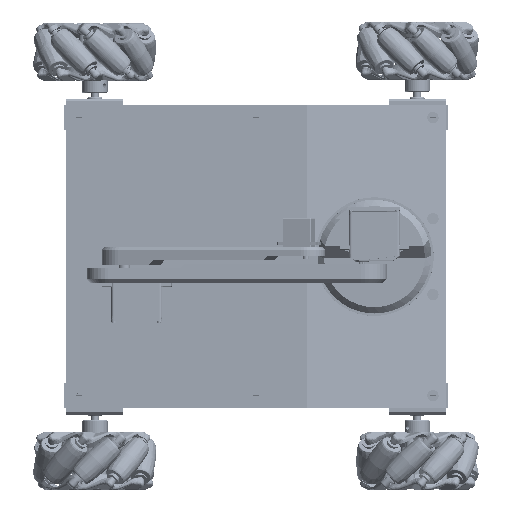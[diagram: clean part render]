
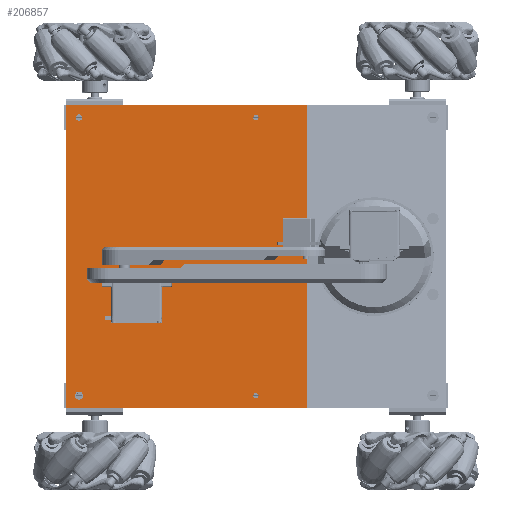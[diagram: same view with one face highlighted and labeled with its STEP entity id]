
A CAD part, front view. The second image highlights one B-rep face of the part: STEP entity #206857.
In plain terms, the highlighted planar face has unit normal (0, -1, 0) as drawn and (0, 0, 1) by its records, which use the part's own axes.
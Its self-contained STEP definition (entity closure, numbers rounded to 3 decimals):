
#16586=FACE_BOUND('',#39625,.T.);
#16587=FACE_BOUND('',#39626,.T.);
#16588=FACE_BOUND('',#39627,.T.);
#16589=FACE_BOUND('',#39628,.T.);
#26872=FACE_OUTER_BOUND('',#39624,.T.);
#39624=EDGE_LOOP('',(#181310,#181311,#181312,#181313));
#39625=EDGE_LOOP('',(#181314));
#39626=EDGE_LOOP('',(#181315));
#39627=EDGE_LOOP('',(#181316));
#39628=EDGE_LOOP('',(#181317));
#47024=CIRCLE('',#226141,2.5);
#47026=CIRCLE('',#226144,3.235);
#47028=CIRCLE('',#226147,2.1);
#47030=CIRCLE('',#226150,2.1);
#61621=LINE('',#482005,#79362);
#61624=LINE('',#482011,#79365);
#61627=LINE('',#482017,#79368);
#61630=LINE('',#482021,#79371);
#79362=VECTOR('',#274511,10.);
#79365=VECTOR('',#274516,10.);
#79368=VECTOR('',#274521,10.);
#79371=VECTOR('',#274526,10.);
#98684=VERTEX_POINT('',#481975);
#98686=VERTEX_POINT('',#481981);
#98688=VERTEX_POINT('',#481987);
#98690=VERTEX_POINT('',#481993);
#98694=VERTEX_POINT('',#482002);
#98695=VERTEX_POINT('',#482004);
#98697=VERTEX_POINT('',#482010);
#98699=VERTEX_POINT('',#482016);
#126733=EDGE_CURVE('',#98684,#98684,#47024,.T.);
#126736=EDGE_CURVE('',#98686,#98686,#47026,.T.);
#126739=EDGE_CURVE('',#98688,#98688,#47028,.T.);
#126742=EDGE_CURVE('',#98690,#98690,#47030,.T.);
#126747=EDGE_CURVE('',#98695,#98694,#61621,.T.);
#126750=EDGE_CURVE('',#98697,#98695,#61624,.T.);
#126753=EDGE_CURVE('',#98699,#98697,#61627,.T.);
#126756=EDGE_CURVE('',#98694,#98699,#61630,.T.);
#181310=ORIENTED_EDGE('',*,*,#126756,.T.);
#181311=ORIENTED_EDGE('',*,*,#126753,.T.);
#181312=ORIENTED_EDGE('',*,*,#126750,.T.);
#181313=ORIENTED_EDGE('',*,*,#126747,.T.);
#181314=ORIENTED_EDGE('',*,*,#126742,.T.);
#181315=ORIENTED_EDGE('',*,*,#126739,.T.);
#181316=ORIENTED_EDGE('',*,*,#126736,.T.);
#181317=ORIENTED_EDGE('',*,*,#126733,.T.);
#195490=PLANE('',#226156);
#206857=ADVANCED_FACE('',(#26872,#16586,#16587,#16588,#16589),#195490,.T.);
#226141=AXIS2_PLACEMENT_3D('',#481976,#274481,#274482);
#226144=AXIS2_PLACEMENT_3D('',#481982,#274488,#274489);
#226147=AXIS2_PLACEMENT_3D('',#481988,#274495,#274496);
#226150=AXIS2_PLACEMENT_3D('',#481994,#274502,#274503);
#226156=AXIS2_PLACEMENT_3D('',#482022,#274527,#274528);
#274481=DIRECTION('center_axis',(0.,0.,-1.));
#274482=DIRECTION('ref_axis',(-1.,0.,0.));
#274488=DIRECTION('center_axis',(0.,0.,-1.));
#274489=DIRECTION('ref_axis',(-1.,0.,0.));
#274495=DIRECTION('center_axis',(0.,0.,-1.));
#274496=DIRECTION('ref_axis',(-1.,0.,0.));
#274502=DIRECTION('center_axis',(0.,0.,-1.));
#274503=DIRECTION('ref_axis',(-1.,0.,0.));
#274511=DIRECTION('',(1.,0.,0.));
#274516=DIRECTION('',(0.,-1.,0.));
#274521=DIRECTION('',(-1.,0.,0.));
#274526=DIRECTION('',(0.,1.,0.));
#274527=DIRECTION('center_axis',(0.,0.,1.));
#274528=DIRECTION('ref_axis',(1.,0.,0.));
#481975=CARTESIAN_POINT('',(222.5,0.,5.));
#481976=CARTESIAN_POINT('Origin',(220.,0.,
5.));
#481981=CARTESIAN_POINT('',(3.235,0.,5.));
#481982=CARTESIAN_POINT('Origin',(0.,0.,
5.));
#481987=CARTESIAN_POINT('',(222.1,-140.,5.));
#481988=CARTESIAN_POINT('Origin',(220.,-140.,5.));
#481993=CARTESIAN_POINT('',(2.1,-140.,5.));
#481994=CARTESIAN_POINT('Origin',(0.,-140.,
5.));
#482002=CARTESIAN_POINT('',(230.,-180.,5.));
#482004=CARTESIAN_POINT('',(-10.,-180.,5.));
#482005=CARTESIAN_POINT('',(-10.,-180.,5.));
#482010=CARTESIAN_POINT('',(-10.,10.,5.));
#482011=CARTESIAN_POINT('',(-10.,10.,5.));
#482016=CARTESIAN_POINT('',(230.,10.,5.));
#482017=CARTESIAN_POINT('',(230.,10.,5.));
#482021=CARTESIAN_POINT('',(230.,-180.,5.));
#482022=CARTESIAN_POINT('Origin',(110.,-85.,5.));
